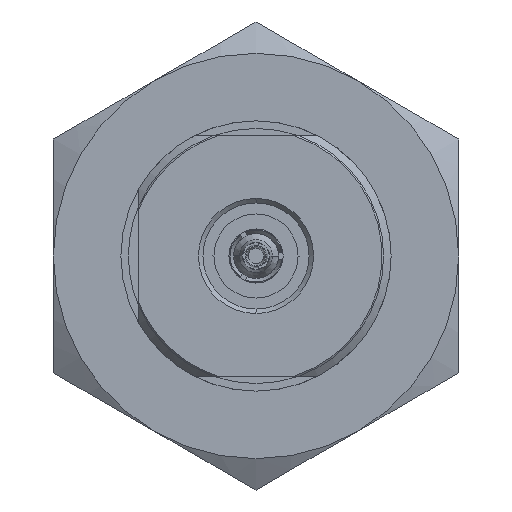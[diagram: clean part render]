
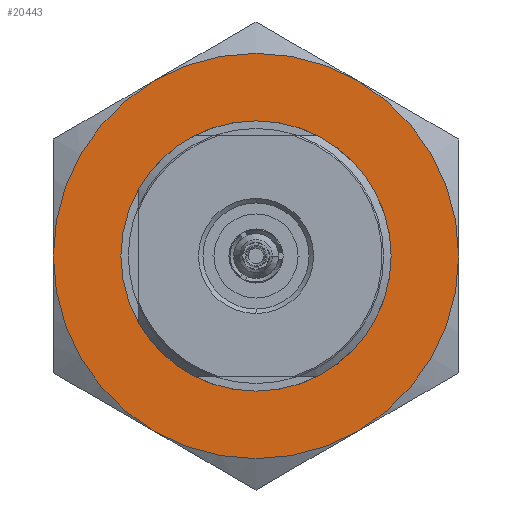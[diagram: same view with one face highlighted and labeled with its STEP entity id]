
A CAD part, left-side view. The second image highlights one B-rep face of the part: STEP entity #20443.
In plain terms, the highlighted planar face has unit normal (-1, 0, 0).
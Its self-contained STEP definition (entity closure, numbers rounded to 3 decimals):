
#20006=CARTESIAN_POINT('',(0.,0.,
0.));
#20007=DIRECTION('',(1.,0.,0.));
#20008=DIRECTION('',(0.,0.,1.));
#20009=AXIS2_PLACEMENT_3D('',#20006,#20007,#20008);
#20011=CARTESIAN_POINT('',(0.,0.,
0.));
#20012=DIRECTION('',(1.,0.,0.));
#20013=DIRECTION('',(0.,0.,-1.));
#20014=AXIS2_PLACEMENT_3D('',#20011,#20012,#20013);
#20016=CARTESIAN_POINT('',(0.,0.,0.));
#20017=DIRECTION('',(1.,0.,0.));
#20018=DIRECTION('',(0.,1.,0.));
#20019=AXIS2_PLACEMENT_3D('',#20016,#20017,#20018);
#20021=CARTESIAN_POINT('',(0.,0.,0.));
#20022=DIRECTION('',(1.,0.,0.));
#20023=DIRECTION('',(0.,0.5,0.866));
#20024=AXIS2_PLACEMENT_3D('',#20021,#20022,#20023);
#20026=CARTESIAN_POINT('',(0.,0.,0.));
#20027=DIRECTION('',(1.,0.,0.));
#20028=DIRECTION('',(0.,-1.,0.));
#20029=AXIS2_PLACEMENT_3D('',#20026,#20027,#20028);
#20031=CARTESIAN_POINT('',(0.,0.,0.));
#20032=DIRECTION('',(1.,0.,0.));
#20033=DIRECTION('',(0.,-0.5,-0.866));
#20034=AXIS2_PLACEMENT_3D('',#20031,#20032,#20033);
#20162=CARTESIAN_POINT('',(0.,13.5,0.));
#20195=CARTESIAN_POINT('',(0.,0.,0.));
#20196=DIRECTION('',(-1.,0.,0.));
#20197=DIRECTION('',(0.,-1.,0.));
#20198=AXIS2_PLACEMENT_3D('',#20195,#20196,#20197);
#20200=CARTESIAN_POINT('',(0.,0.,0.));
#20201=DIRECTION('',(-1.,0.,0.));
#20202=DIRECTION('',(0.,1.,0.));
#20203=AXIS2_PLACEMENT_3D('',#20200,#20201,#20202);
#20212=CARTESIAN_POINT('',(0.,-6.75,
11.691));
#20370=CARTESIAN_POINT('',(0.,0.,8.7));
#20371=CARTESIAN_POINT('',(0.,0.,-8.7));
#20372=VERTEX_POINT('',#20370);
#20373=VERTEX_POINT('',#20371);
#20387=VERTEX_POINT('',#20162);
#20391=VERTEX_POINT('',#20212);
#20394=CARTESIAN_POINT('',(0.,6.75,11.691));
#20395=VERTEX_POINT('',#20394);
#20396=CARTESIAN_POINT('',(0.,-13.5,0.));
#20397=CARTESIAN_POINT('',(0.,-6.75,-11.691));
#20398=VERTEX_POINT('',#20396);
#20399=VERTEX_POINT('',#20397);
#20400=CARTESIAN_POINT('',(0.,6.75,-11.691));
#20401=VERTEX_POINT('',#20400);
#20418=CARTESIAN_POINT('',(0.,0.,0.));
#20419=DIRECTION('',(1.,0.,0.));
#20420=DIRECTION('',(0.,-1.,0.));
#20421=AXIS2_PLACEMENT_3D('',#20418,#20419,#20420);
#20422=PLANE('',#20421);
#20424=ORIENTED_EDGE('',*,*,#20423,.F.);
#20426=ORIENTED_EDGE('',*,*,#20425,.T.);
#20428=ORIENTED_EDGE('',*,*,#20427,.T.);
#20430=ORIENTED_EDGE('',*,*,#20429,.F.);
#20432=ORIENTED_EDGE('',*,*,#20431,.T.);
#20434=ORIENTED_EDGE('',*,*,#20433,.T.);
#20435=EDGE_LOOP('',(#20424,#20426,#20428,#20430,#20432,#20434));
#20436=FACE_OUTER_BOUND('',#20435,.F.);
#20438=ORIENTED_EDGE('',*,*,#20437,.F.);
#20440=ORIENTED_EDGE('',*,*,#20439,.F.);
#20441=EDGE_LOOP('',(#20438,#20440));
#20442=FACE_BOUND('',#20441,.F.);
#20443=ADVANCED_FACE('',(#20436,#20442),#20422,.F.);
#20010=CIRCLE('',#20009,8.7);
#20015=CIRCLE('',#20014,8.7);
#20020=CIRCLE('',#20019,13.5);
#20025=CIRCLE('',#20024,13.5);
#20030=CIRCLE('',#20029,13.5);
#20035=CIRCLE('',#20034,13.5);
#20199=CIRCLE('',#20198,13.5);
#20204=CIRCLE('',#20203,13.5);
#20423=EDGE_CURVE('',#20387,#20401,#20204,.T.);
#20425=EDGE_CURVE('',#20387,#20395,#20020,.T.);
#20427=EDGE_CURVE('',#20395,#20391,#20025,.T.);
#20429=EDGE_CURVE('',#20398,#20391,#20199,.T.);
#20431=EDGE_CURVE('',#20398,#20399,#20030,.T.);
#20433=EDGE_CURVE('',#20399,#20401,#20035,.T.);
#20437=EDGE_CURVE('',#20372,#20373,#20010,.T.);
#20439=EDGE_CURVE('',#20373,#20372,#20015,.T.);
